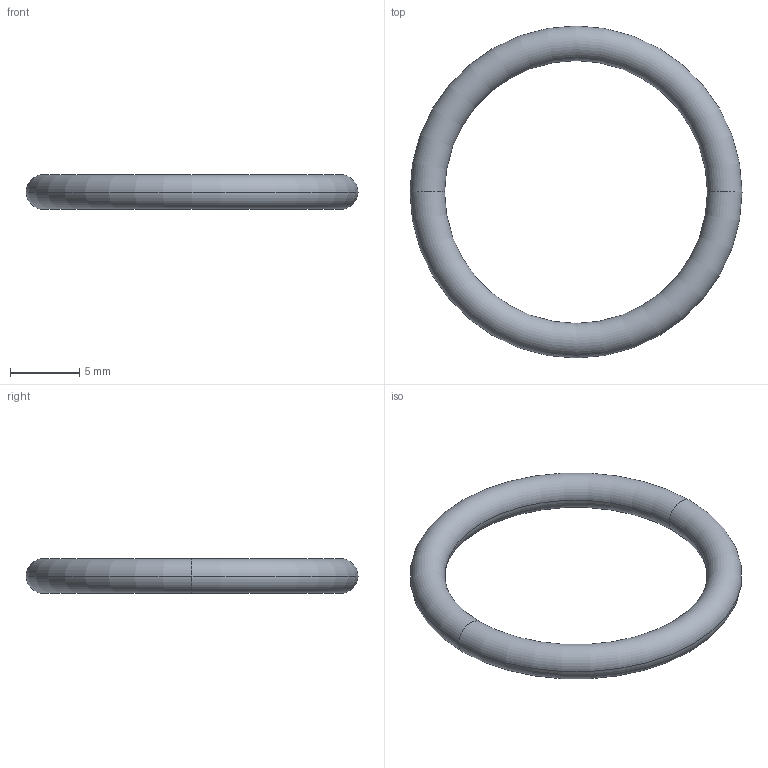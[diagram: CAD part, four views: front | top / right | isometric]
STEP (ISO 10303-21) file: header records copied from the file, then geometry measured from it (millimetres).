
FILE_DESCRIPTION (( 'STEP AP203' ), '1' );
FILE_NAME ('OD 24x2.5mm OȦ.STEP', '2024-06-11T12:49:35', ( '' ), ( '' ), 'SwSTEP 2.0', 'SolidWorks 2020', '' );
FILE_SCHEMA (( 'CONFIG_CONTROL_DESIGN' ));
Length unit declared in the file: millimetre
Products named in the file (1): OD 24x2.5mm OȦ
Bounding box: 24 x 24 x 2.5 mm (x, y, z)
Volume: 331.6 mm3; surface area: 530.5 mm2
Topology: 1 solids, 1 shells, 4 faces, 8 edges, 4 vertices
Faces by surface type: torus 4
Entity records: 189 total; most frequent: DIRECTION 26, CARTESIAN_POINT 17, ORIENTED_EDGE 16, AXIS2_PLACEMENT_3D 13, PERSON_AND_ORGANIZATION 8, EDGE_CURVE 8, CIRCLE 8, COORDINATED_UNIVERSAL_TIME_OFFSET 5
